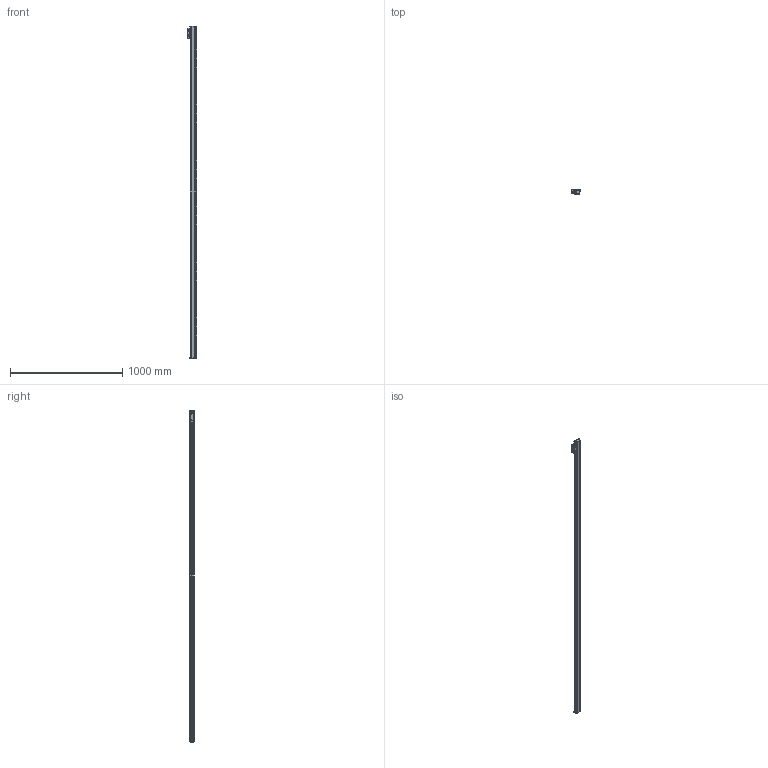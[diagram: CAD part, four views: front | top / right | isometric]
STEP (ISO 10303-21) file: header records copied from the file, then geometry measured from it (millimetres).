
FILE_DESCRIPTION(/* description */ (''),/* implementation_level */ '2;1');
FILE_NAME(/* name */ 'JC21A-2840-1.stp',/* time_stamp */ '2023-12-21T17:21:59+08:00',/* author */ (''),/* organization */ (''),/* preprocessor_version */ 'ST-DEVELOPER v14',/* originating_system */ 'SIEMENS PLM Software NX 8.0',/* authorisation */ '');
FILE_SCHEMA (('CONFIG_CONTROL_DESIGN'));
Length unit declared in the file: millimetre
Products named in the file (1): JC21A-2840-1
Bounding box: 87.5 x 37 x 2961 mm (x, y, z)
Volume: 4599785.4 mm3; surface area: 740784.5 mm2
Topology: 4 solids, 6 shells, 1545 faces, 4650 edges, 3099 vertices
Faces by surface type: plane 970, cylinder 543, cone 22, bspline 8, extrusion 2
Full cylindrical faces by diameter (mm): 2.5 x12, 3.3 x6, 3.7 x4, 4.2 x4, 5 x2, 6 x6, 6.6 x2, 6.8 x32, 7 x2, 13.2 x2
Entity records: 53481 total; most frequent: CARTESIAN_POINT 10887, ORIENTED_EDGE 9016, DIRECTION 8876, EDGE_CURVE 4508, VERTEX_POINT 3051, AXIS2_PLACEMENT_3D 2981, VECTOR 2914, LINE 2912
